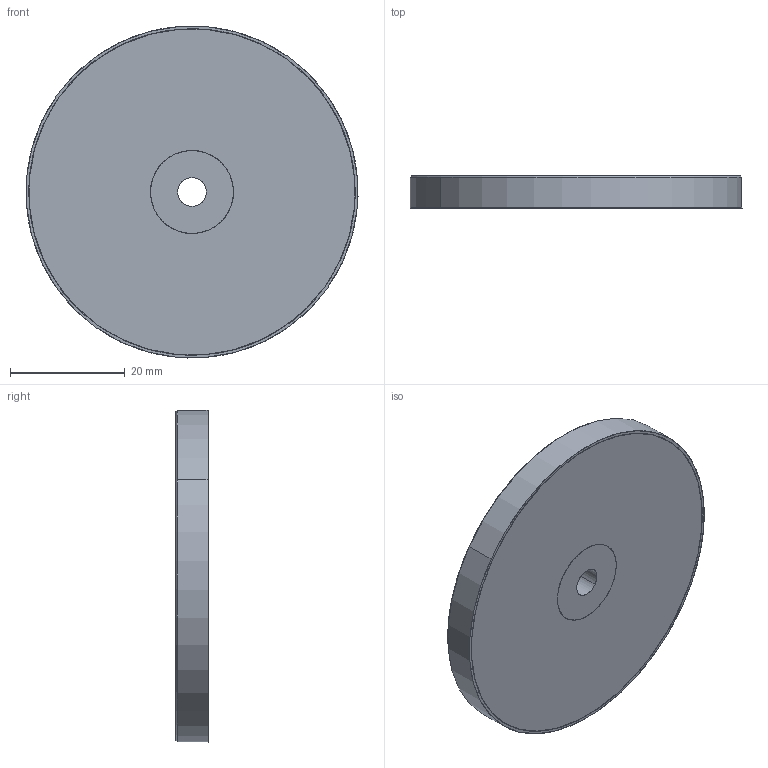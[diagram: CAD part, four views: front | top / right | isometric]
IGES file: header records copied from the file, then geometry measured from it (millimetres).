
Start section: SolidWorks IGES file using analytic representation for surfaces
Global section: file name: C:\Zettlex Data\Mechanical Drawings\1615\58mm Plain Rotor 5.00mm Rev 1-0.IGS; native system: SolidWorks 2015; preprocessor: SolidWorks 2015; author: Nigel; date: 150907.174107; units: millimetre
Bounding box: 57.98 x 5.6 x 57.98 mm (x, y, z)
Surface area: 6377.5 mm2 (no closed solid volume)
Topology: 0 solids, 0 shells, 653 faces, 7690 edges, 7690 vertices
Faces by surface type: bspline 639, revolution 14
